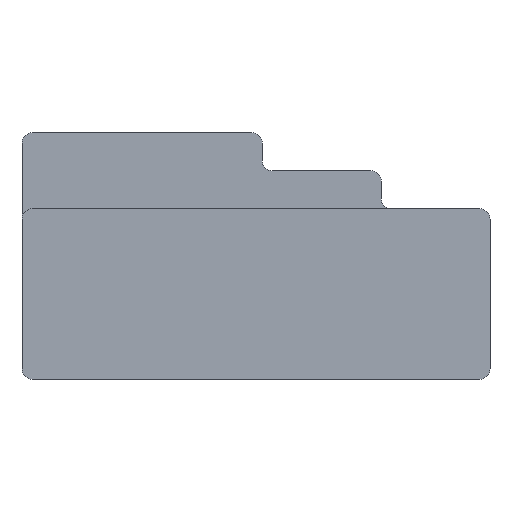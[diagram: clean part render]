
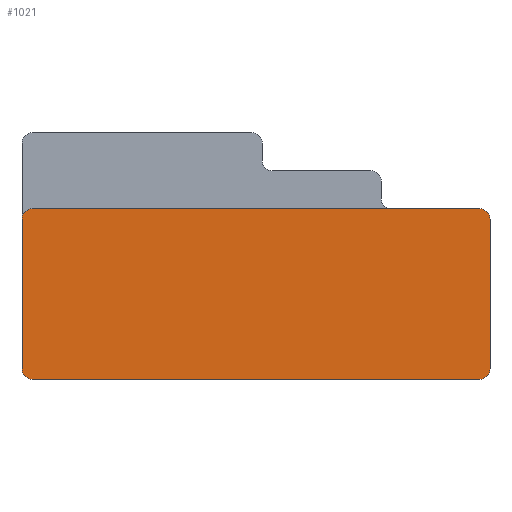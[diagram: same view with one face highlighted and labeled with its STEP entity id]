
A CAD part, front view. The second image highlights one B-rep face of the part: STEP entity #1021.
In plain terms, the highlighted planar face has unit normal (0, -1, 0).
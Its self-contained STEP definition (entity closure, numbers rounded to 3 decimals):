
#180=CARTESIAN_POINT('',(-10.9,-11.6,7.8));
#181=DIRECTION('',(0.,-1.,0.));
#182=DIRECTION('',(0.,0.,1.));
#183=AXIS2_PLACEMENT_3D('',#180,#181,#182);
#185=CARTESIAN_POINT('',(10.9,-11.6,7.8));
#186=DIRECTION('',(0.,-1.,0.));
#187=DIRECTION('',(1.,0.,0.));
#188=AXIS2_PLACEMENT_3D('',#185,#186,#187);
#190=CARTESIAN_POINT('',(10.9,-11.6,0.5));
#191=DIRECTION('',(0.,-1.,0.));
#192=DIRECTION('',(0.,0.,-1.));
#193=AXIS2_PLACEMENT_3D('',#190,#191,#192);
#195=CARTESIAN_POINT('',(-10.9,-11.6,0.5));
#196=DIRECTION('',(0.,-1.,0.));
#197=DIRECTION('',(-1.,0.,0.));
#198=AXIS2_PLACEMENT_3D('',#195,#196,#197);
#200=DIRECTION('',(0.,0.,1.));
#201=VECTOR('',#200,7.3);
#202=CARTESIAN_POINT('',(-11.4,-11.6,0.5));
#203=LINE('',#202,#201);
#288=DIRECTION('',(1.,0.,0.));
#289=VECTOR('',#288,21.8);
#290=CARTESIAN_POINT('',(-10.9,-11.6,8.3));
#291=LINE('',#290,#289);
#480=DIRECTION('',(1.,0.,0.));
#481=VECTOR('',#480,21.8);
#482=CARTESIAN_POINT('',(-10.9,-11.6,0.));
#483=LINE('',#482,#481);
#550=DIRECTION('',(0.,0.,1.));
#551=VECTOR('',#550,7.3);
#552=CARTESIAN_POINT('',(11.4,-11.6,0.5));
#553=LINE('',#552,#551);
#660=CARTESIAN_POINT('',(-10.9,-11.6,8.3));
#661=CARTESIAN_POINT('',(-11.4,-11.6,7.8));
#662=VERTEX_POINT('',#660);
#663=VERTEX_POINT('',#661);
#688=CARTESIAN_POINT('',(11.4,-11.6,7.8));
#689=VERTEX_POINT('',#688);
#690=CARTESIAN_POINT('',(10.9,-11.6,8.3));
#691=VERTEX_POINT('',#690);
#692=CARTESIAN_POINT('',(10.9,-11.6,0.));
#693=CARTESIAN_POINT('',(11.4,-11.6,0.5));
#694=VERTEX_POINT('',#692);
#695=VERTEX_POINT('',#693);
#704=CARTESIAN_POINT('',(-11.4,-11.6,0.5));
#705=VERTEX_POINT('',#704);
#706=CARTESIAN_POINT('',(-10.9,-11.6,0.));
#707=VERTEX_POINT('',#706);
#999=CARTESIAN_POINT('',(-11.4,-11.6,0.));
#1000=DIRECTION('',(0.,-1.,0.));
#1001=DIRECTION('',(1.,0.,0.));
#1002=AXIS2_PLACEMENT_3D('',#999,#1000,#1001);
#1003=PLANE('',#1002);
#1005=ORIENTED_EDGE('',*,*,#1004,.F.);
#1007=ORIENTED_EDGE('',*,*,#1006,.T.);
#1009=ORIENTED_EDGE('',*,*,#1008,.F.);
#1011=ORIENTED_EDGE('',*,*,#1010,.F.);
#1012=ORIENTED_EDGE('',*,*,#989,.F.);
#1014=ORIENTED_EDGE('',*,*,#1013,.F.);
#1016=ORIENTED_EDGE('',*,*,#1015,.F.);
#1018=ORIENTED_EDGE('',*,*,#1017,.T.);
#1019=EDGE_LOOP('',(#1005,#1007,#1009,#1011,#1012,#1014,#1016,#1018));
#1020=FACE_OUTER_BOUND('',#1019,.F.);
#1021=ADVANCED_FACE('',(#1020),#1003,.T.);
#184=CIRCLE('',#183,0.5);
#189=CIRCLE('',#188,0.5);
#194=CIRCLE('',#193,0.5);
#199=CIRCLE('',#198,0.5);
#989=EDGE_CURVE('',#694,#695,#194,.T.);
#1004=EDGE_CURVE('',#662,#663,#184,.T.);
#1006=EDGE_CURVE('',#662,#691,#291,.T.);
#1008=EDGE_CURVE('',#689,#691,#189,.T.);
#1010=EDGE_CURVE('',#695,#689,#553,.T.);
#1013=EDGE_CURVE('',#707,#694,#483,.T.);
#1015=EDGE_CURVE('',#705,#707,#199,.T.);
#1017=EDGE_CURVE('',#705,#663,#203,.T.);
